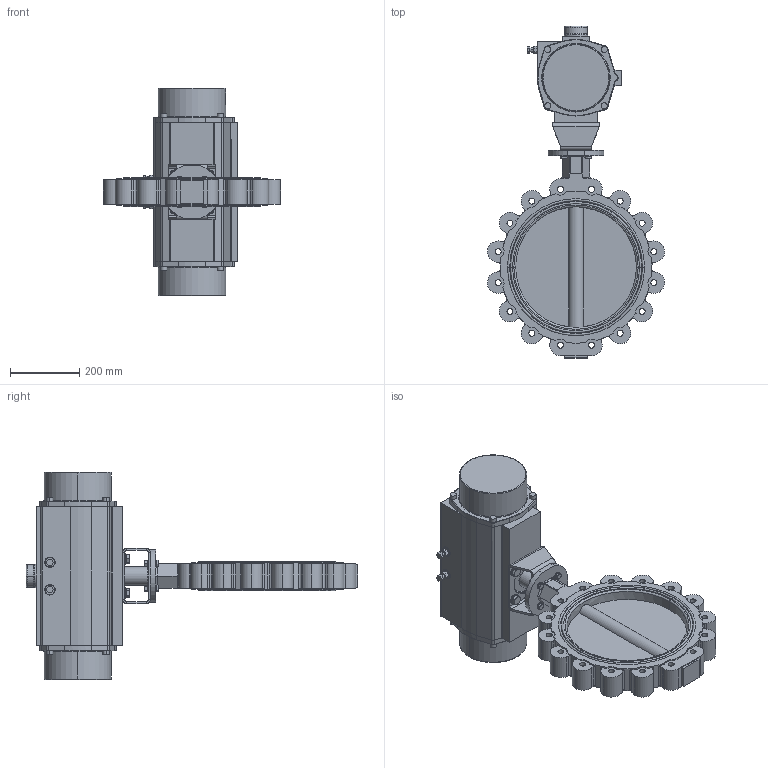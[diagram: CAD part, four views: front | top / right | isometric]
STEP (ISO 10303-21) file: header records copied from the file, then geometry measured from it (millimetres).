
FILE_DESCRIPTION (( 'STEP AP214' ), '1' );
FILE_NAME ('67355.step', '2020-10-23T12:38:52', ( '' ), ( '' ), 'SwSTEP 2.0', 'SolidWorks 2019', '' );
FILE_SCHEMA (( 'AUTOMOTIVE_DESIGN' ));
Length unit declared in the file: millimetre
Products named in the file (10): U-Scheibe DIN 125 A_M10; U-Scheibe DIN 125 A_M16; 6kt-Schr DIN 933_M16x30; SR1750-V36_02; TL20-0350_M01; 67355; MB F14-F10_MB F12-F10 (1.4301); 6kt-Mu DIN 934_M10; 6kt-Schr DIN 933_M10x35; Vierkantadapter VK22-36_8mm gek〉zt
Assembly tree (28 placements, depth 2):
  67355
    TL20-0350_M01
    SR1750-V36_02
    U-Scheibe DIN 125 A_M10  x8
    6kt-Schr DIN 933_M10x35  x4
    MB F14-F10_MB F12-F10 (1.4301)
    6kt-Schr DIN 933_M16x30  x4
    U-Scheibe DIN 125 A_M16  x4
    6kt-Mu DIN 934_M10  x4
    Vierkantadapter VK22-36_8mm gek〉zt
Bounding box: 513.15 x 961.5 x 601.09 mm (x, y, z)
Volume: 34924017.7 mm3; surface area: 1526382.9 mm2
Topology: 30 solids, 30 shells, 1087 faces, 2604 edges, 1640 vertices
Faces by surface type: cylinder 469, plane 445, cone 121, torus 46, bspline 6
Entity records: 27453 total; most frequent: CARTESIAN_POINT 4849, DIRECTION 4538, ORIENTED_EDGE 4008, EDGE_CURVE 2004, AXIS2_PLACEMENT_3D 1795, VERTEX_POINT 1284, CIRCLE 971, LINE 948
